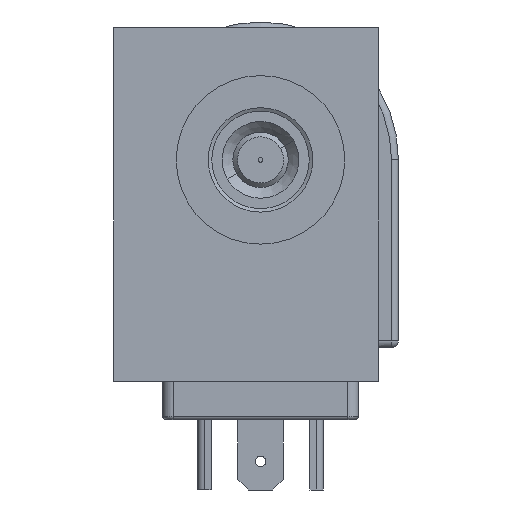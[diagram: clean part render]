
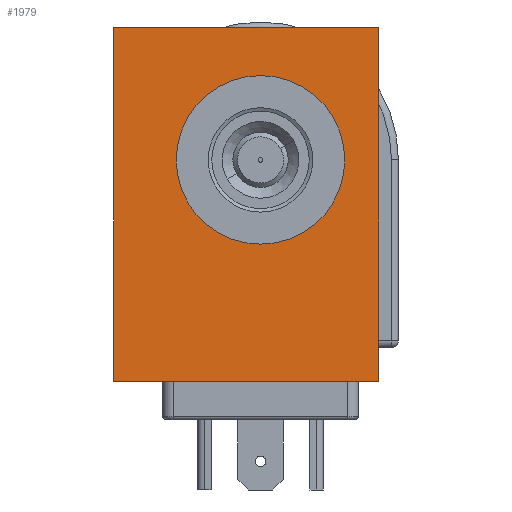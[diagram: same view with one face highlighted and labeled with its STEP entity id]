
A CAD part, left-side view. The second image highlights one B-rep face of the part: STEP entity #1979.
In plain terms, the highlighted planar face has unit normal (-1, 0, 0).
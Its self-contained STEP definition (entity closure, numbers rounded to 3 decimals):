
#1979 = ADVANCED_FACE( '', ( #4376, #4377 ), #4378, .T. );
#4376 = FACE_BOUND( '', #7424, .T. );
#4377 = FACE_OUTER_BOUND( '', #7425, .T. );
#4378 = PLANE( '', #7426 );
#7424 = EDGE_LOOP( '', ( #12643 ) );
#7425 = EDGE_LOOP( '', ( #12644, #12645, #12646, #12647 ) );
#7426 = AXIS2_PLACEMENT_3D( '', #12648, #12649, #12650 );
#12643 = ORIENTED_EDGE( '', *, *, #20160, .T. );
#12644 = ORIENTED_EDGE( '', *, *, #20161, .F. );
#12645 = ORIENTED_EDGE( '', *, *, #20162, .F. );
#12646 = ORIENTED_EDGE( '', *, *, #19259, .T. );
#12647 = ORIENTED_EDGE( '', *, *, #18883, .T. );
#12648 = CARTESIAN_POINT( '', ( -28., -19.05, 50.8 ) );
#12649 = DIRECTION( '', ( -1., 0., 0. ) );
#12650 = DIRECTION( '', ( 0., 0., 1. ) );
#18883 = EDGE_CURVE( '', #23087, #23085, #23088, .T. );
#19259 = EDGE_CURVE( '', #23740, #23087, #23741, .T. );
#20160 = EDGE_CURVE( '', #25215, #25215, #25216, .T. );
#20161 = EDGE_CURVE( '', #25217, #23085, #25218, .T. );
#20162 = EDGE_CURVE( '', #23740, #25217, #25219, .T. );
#23085 = VERTEX_POINT( '', #29800 );
#23087 = VERTEX_POINT( '', #29803 );
#23088 = LINE( '', #29804, #29805 );
#23740 = VERTEX_POINT( '', #31050 );
#23741 = LINE( '', #31051, #31052 );
#25215 = VERTEX_POINT( '', #34276 );
#25216 = CIRCLE( '', #34277, 12.1 );
#25217 = VERTEX_POINT( '', #34278 );
#25218 = LINE( '', #34279, #34280 );
#25219 = LINE( '', #34281, #34282 );
#29800 = CARTESIAN_POINT( '', ( -28., 19.05, 0. ) );
#29803 = CARTESIAN_POINT( '', ( -28., 19.05, 50.8 ) );
#29804 = CARTESIAN_POINT( '', ( -28., 19.05, 50.8 ) );
#29805 = VECTOR( '', #42213, 1000. );
#31050 = CARTESIAN_POINT( '', ( -28., -19.05, 50.8 ) );
#31051 = CARTESIAN_POINT( '', ( -28., -19.05, 50.8 ) );
#31052 = VECTOR( '', #42524, 1000. );
#34276 = CARTESIAN_POINT( '', ( -28., -2.05, 43.9 ) );
#34277 = AXIS2_PLACEMENT_3D( '', #43170, #43171, #43172 );
#34278 = CARTESIAN_POINT( '', ( -28., -19.05, 0. ) );
#34279 = CARTESIAN_POINT( '', ( -28., -19.05, 0. ) );
#34280 = VECTOR( '', #43173, 1000. );
#34281 = CARTESIAN_POINT( '', ( -28., -19.05, 50.8 ) );
#34282 = VECTOR( '', #43174, 1000. );
#42213 = DIRECTION( '', ( 0., 0., -1. ) );
#42524 = DIRECTION( '', ( 0., 1., 0. ) );
#43170 = CARTESIAN_POINT( '', ( -28., -2.05, 31.8 ) );
#43171 = DIRECTION( '', ( 1., 0., 0. ) );
#43172 = DIRECTION( '', ( 0., 0., 1. ) );
#43173 = DIRECTION( '', ( 0., 1., 0. ) );
#43174 = DIRECTION( '', ( 0., 0., -1. ) );
